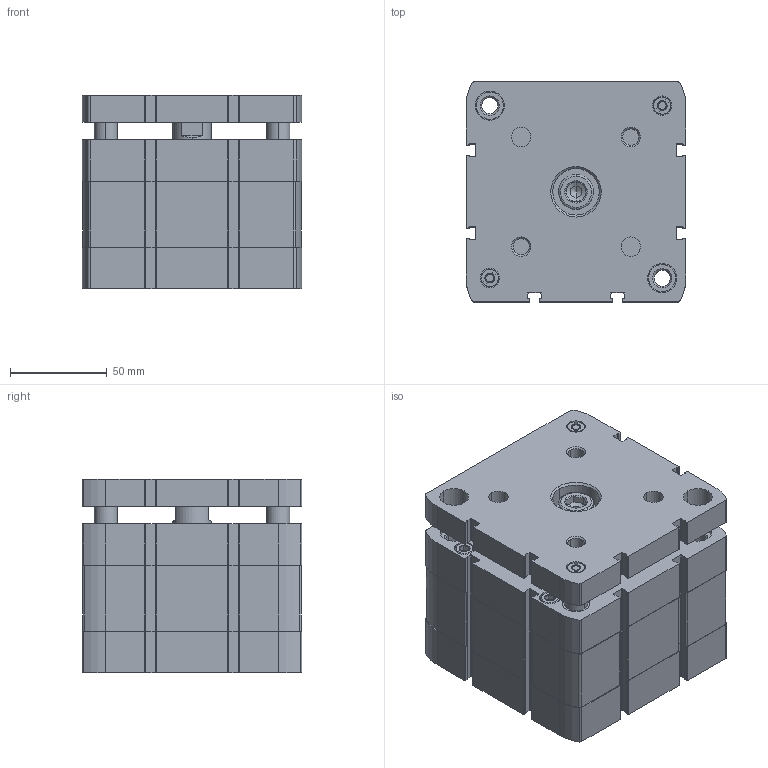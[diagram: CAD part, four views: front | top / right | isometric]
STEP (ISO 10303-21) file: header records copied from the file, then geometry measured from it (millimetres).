
FILE_DESCRIPTION (( 'STEP AP203' ), '1' );
FILE_NAME ('CCNG100-10.STEP', '2017-04-20T18:00:40', ( '' ), ( '' ), 'SwSTEP 2.0', 'SolidWorks 2016', '' );
FILE_SCHEMA (( 'CONFIG_CONTROL_DESIGN' ));
Length unit declared in the file: millimetre
Products named in the file (3): CCNG-100-10---(Z); CCNG-100-10----(KS); CCNG100-10
Assembly tree (2 placements, depth 2):
  CCNG100-10
    CCNG-100-10---(Z)
    CCNG-100-10----(KS)
Bounding box: 113.5 x 113.5 x 100 mm (x, y, z)
Volume: 1034202.7 mm3; surface area: 173853.1 mm2
Topology: 2 solids, 4 shells, 797 faces, 2098 edges, 1347 vertices
Faces by surface type: plane 343, cylinder 304, cone 144, bspline 6
Entity records: 25497 total; most frequent: CARTESIAN_POINT 5013, DIRECTION 4398, ORIENTED_EDGE 4160, EDGE_CURVE 2080, AXIS2_PLACEMENT_3D 1616, VERTEX_POINT 1347, VECTOR 1166, LINE 1166
